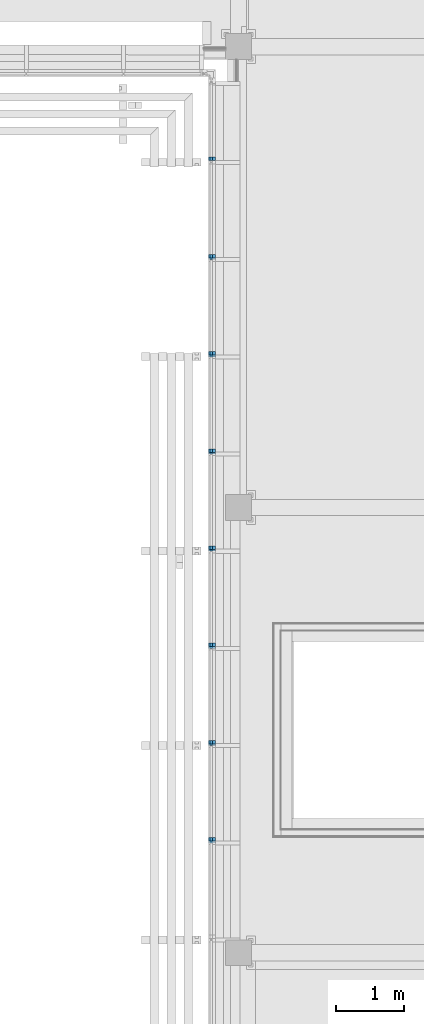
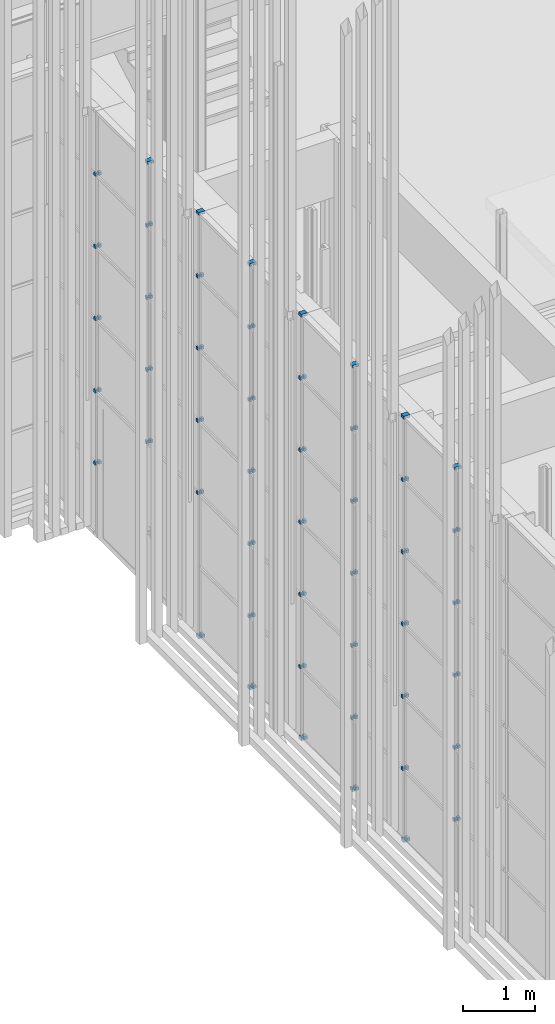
# One storey, part 42 of 260: 50 members, 1 element without a shape of its own.
"""IFC2X3 building model written with IfcOpenShell, lengths in millimetres."""

from ifc_helpers import new_model, entity, si_unit, converted_unit, derived_unit, money_unit, direction, frame, origin_with_axes, place, context, subcontext, project, spatial, faceted_brep, source, transform, mapped, material, type_object, element, aggregate, save


model = new_model("IFC2X3")

# Units and contexts
model_context = context("Model", 3, precision=0.01, world=origin_with_axes(), true_north=direction((0.0, 1.0)))
body_context = subcontext(model_context, "Body", "Model", "MODEL_VIEW")
ifc_project = project(units=[si_unit("LENGTHUNIT", "METRE", prefix="MILLI"), si_unit("AREAUNIT", "SQUARE_METRE"), si_unit("VOLUMEUNIT", "CUBIC_METRE"), converted_unit("PLANEANGLEUNIT", "DEGREE", entity("IfcPlaneAngleMeasure", 0.0174532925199), si_unit("PLANEANGLEUNIT", "RADIAN"), dimensions=[0, 0, 0, 0, 0, 0, 0]), money_unit("EUR"), converted_unit("TIMEUNIT", "Year", entity("IfcTimeMeasure", 31556926.0), si_unit("TIMEUNIT", "SECOND"), dimensions=[0, 0, 1, 0, 0, 0, 0]), si_unit("MASSUNIT", "GRAM", prefix="KILO"), si_unit("THERMODYNAMICTEMPERATUREUNIT", "DEGREE_CELSIUS"), si_unit("LUMINOUSINTENSITYUNIT", "LUMEN"), si_unit("ENERGYUNIT", "JOULE", prefix="MEGA"), derived_unit("THERMALCONDUCTANCEUNIT", [(si_unit("POWERUNIT", "WATT"), 1), (si_unit("LENGTHUNIT", "METRE"), -1), (si_unit("THERMODYNAMICTEMPERATUREUNIT", "KELVIN"), -1)]), derived_unit("SPECIFICHEATCAPACITYUNIT", [(si_unit("ENERGYUNIT", "JOULE"), 1), (si_unit("MASSUNIT", "GRAM", prefix="KILO"), -1), (si_unit("THERMODYNAMICTEMPERATUREUNIT", "KELVIN"), -1)]), derived_unit("MASSDENSITYUNIT", [(si_unit("MASSUNIT", "GRAM", prefix="KILO"), 1), (si_unit("VOLUMEUNIT", "CUBIC_METRE"), -1)])], contexts=[model_context])

# Site, building, storey
site_placement = place(None, origin_with_axes())
site = spatial("IfcSite", under=ifc_project, at=site_placement, Name="Kolde pst 67a", CompositionType="ELEMENT")
building_placement = place(site_placement, origin_with_axes())
building = spatial("IfcBuilding", under=site, at=building_placement, Name="Riigigümnaasium", CompositionType="ELEMENT")
storey_placement = place(building_placement, origin_with_axes())
storey = spatial("IfcBuildingStorey", under=building, at=storey_placement, Name="1. korrus", CompositionType="ELEMENT", Elevation=0.0)

# Curtain wall, members
curtain_wall_type = type_object("IfcCurtainWallType", Name="Curtain Wall Type", PredefinedType="NOTDEFINED")
curtain_wall_placement = place(storey_placement, frame((47829.9854655, 8727.77020058, -0.000749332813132), z_axis=(0.0, 0.0, 1.0), x_axis=(1.0, 0.0, 0.0)))
curtain_wall = element("IfcCurtainWall", 1, at=curtain_wall_placement, inside=storey, type_object=curtain_wall_type, Name="KLAASFASSAAD")
ifc_material = material(Name="_METALL - alumiinium")
member_type_1 = type_object("IfcMemberType", Name="Boundary Frame 50 x 100", PredefinedType="MEMBER")
shared_shape_1 = source(origin_with_axes(), body_context, "Body", "Brep", [
    faceted_brep([(-30.0, -16.5, 77.2480145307), (-50.0, -16.5, 77.2480145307), (-50.0, -60.0, 77.2480145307), (0.0, -60.0, 77.2480145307), (0.0, 40.0, 77.2480145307), (-50.0, 40.0, 77.2480145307), (-50.0, 16.5, 77.2480145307), (-30.0, 16.5, 77.2480145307), (-30.0, -16.5, 0.0), (-50.0, -16.5, 0.0), (-50.0, -60.0, 0.0), (0.0, -60.0, 0.0), (0.0, 40.0, 0.0), (-50.0, 40.0, 0.0), (-50.0, 16.5, 0.0), (-30.0, 16.5, 0.0)], [[[0, 1, 2, 3, 4, 5, 6, 7]], [[0, 8, 9, 1]], [[9, 10, 2, 1]], [[10, 11, 3, 2]], [[11, 12, 4, 3]], [[12, 13, 5, 4]], [[6, 5, 13, 14]], [[14, 15, 7, 6]], [[7, 15, 8, 0]], [[8, 15, 14, 13, 12, 11, 10, 9]]]),
])
member_1_placement = place(curtain_wall_placement, frame((-4.75753836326e-06, 5218.79108249, 0.0), z_axis=(-9.11633809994e-10, 1.0, 0.0), x_axis=(0.0, 0.0, 1.0)))
member_1 = element("IfcMember", 2, at=member_1_placement, type_object=member_type_1, material=ifc_material, Name="RF RAAM SERV-557", ObjectType="MEMBER", context=body_context, shape_type="MappedRepresentation", body=[
    mapped(shared_shape_1, transform((0.0, 0.0, 0.0), x_axis=(-1.0, 0.0, 0.0), y_axis=(0.0, -1.0, 9.11633687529e-10), z_axis=(0.0, 9.11633687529e-10, 1.0))),
])
member_2_placement = place(curtain_wall_placement, frame((-6.06114980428e-06, 6648.7910799, 0.0), z_axis=(-9.1163377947e-10, 1.0, 0.0), x_axis=(0.0, 0.0, 1.0)))
member_2 = element("IfcMember", 3, at=member_2_placement, type_object=member_type_1, material=ifc_material, Name="RF RAAM SERV-558", ObjectType="MEMBER", context=body_context, shape_type="MappedRepresentation", body=[
    mapped(shared_shape_1, transform((0.0, 0.0, 0.0), x_axis=(-1.0, 0.0, 0.0), y_axis=(0.0, -1.0, 9.11633657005e-10), z_axis=(0.0, 9.11633657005e-10, 1.0))),
])
member_3_placement = place(curtain_wall_placement, frame((-8.66836558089e-06, 9508.79106023, 0.0), z_axis=(-9.11633547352e-10, 1.0, 0.0), x_axis=(0.0, 0.0, 1.0)))
member_3 = element("IfcMember", 4, at=member_3_placement, type_object=member_type_1, material=ifc_material, Name="RF RAAM SERV-560", ObjectType="MEMBER", context=body_context, shape_type="MappedRepresentation", body=[
    mapped(shared_shape_1, transform((0.0, 0.0, 0.0), x_axis=(-1.0, 0.0, 0.0), y_axis=(0.0, -1.0, 9.11633424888e-10), z_axis=(0.0, 9.11633424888e-10, 1.0))),
])
member_4_placement = place(curtain_wall_placement, frame((-9.97197702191e-06, 10938.7910576, 0.0), z_axis=(-9.11633516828e-10, 1.0, 0.0), x_axis=(0.0, 0.0, 1.0)))
member_4 = element("IfcMember", 5, at=member_4_placement, type_object=member_type_1, material=ifc_material, Name="RF RAAM SERV-561", ObjectType="MEMBER", context=body_context, shape_type="MappedRepresentation", body=[
    mapped(shared_shape_1, transform((0.0, 0.0, 0.0), x_axis=(-1.0, 0.0, 0.0), y_axis=(0.0, -1.0, 9.11633394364e-10), z_axis=(0.0, 9.11633394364e-10, 1.0))),
])
member_5_placement = place(curtain_wall_placement, frame((-4.82796025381e-06, 5296.03908467, 7259.99994321), z_axis=(9.11633808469e-10, -1.0, 0.0), x_axis=(0.0, 0.0, -1.0)))
member_5 = element("IfcMember", 6, at=member_5_placement, type_object=member_type_1, material=ifc_material, Name="RF RAAM SERV-578", ObjectType="MEMBER", context=body_context, shape_type="MappedRepresentation", body=[
    mapped(shared_shape_1, transform((0.0, 0.0, 0.0), x_axis=(-1.0, 0.0, 0.0), y_axis=(0.0, -1.0, -9.11633808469e-10), z_axis=(0.0, -9.11633808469e-10, 1.0))),
])
member_6_placement = place(curtain_wall_placement, frame((-6.13157169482e-06, 6726.03908467, 7259.99994321), z_axis=(9.11633778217e-10, -1.0, 0.0), x_axis=(0.0, 0.0, -1.0)))
member_6 = element("IfcMember", 7, at=member_6_placement, type_object=member_type_1, material=ifc_material, Name="RF RAAM SERV-577", ObjectType="MEMBER", context=body_context, shape_type="MappedRepresentation", body=[
    mapped(shared_shape_1, transform((0.0, 0.0, 0.0), x_axis=(-1.0, 0.0, 0.0), y_axis=(0.0, -1.0, -9.11633778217e-10), z_axis=(0.0, -9.11633778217e-10, 1.0))),
])
member_7_placement = place(curtain_wall_placement, frame((-8.73878747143e-06, 9586.03908467, 7259.99994321), z_axis=(9.11633548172e-10, -1.0, 0.0), x_axis=(0.0, 0.0, -1.0)))
member_7 = element("IfcMember", 8, at=member_7_placement, type_object=member_type_1, material=ifc_material, Name="RF RAAM SERV-575", ObjectType="MEMBER", context=body_context, shape_type="MappedRepresentation", body=[
    mapped(shared_shape_1, transform((0.0, 0.0, 0.0), x_axis=(-1.0, 0.0, 0.0), y_axis=(0.0, -1.0, -9.11633548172e-10), z_axis=(0.0, -9.11633548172e-10, 1.0))),
])
member_8_placement = place(curtain_wall_placement, frame((-1.00423989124e-05, 11016.0390847, 7259.99994321), z_axis=(9.11633517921e-10, -1.0, 0.0), x_axis=(0.0, 0.0, -1.0)))
member_8 = element("IfcMember", 9, at=member_8_placement, type_object=member_type_1, material=ifc_material, Name="RF RAAM SERV-574", ObjectType="MEMBER", context=body_context, shape_type="MappedRepresentation", body=[
    mapped(shared_shape_1, transform((0.0, 0.0, 0.0), x_axis=(-1.0, 0.0, 0.0), y_axis=(0.0, -1.0, -9.11633517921e-10), z_axis=(0.0, -9.11633517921e-10, 1.0))),
])
member_9_placement = place(curtain_wall_placement, frame((-3.52434881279e-06, 3866.03908467, 7259.99994321), z_axis=(9.11633665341e-10, -1.0, 0.0), x_axis=(0.0, 0.0, -1.0)))
member_9 = element("IfcMember", 10, at=member_9_placement, type_object=member_type_1, material=ifc_material, Name="RF RAAM SERV-579", ObjectType="MEMBER", context=body_context, shape_type="MappedRepresentation", body=[
    mapped(shared_shape_1, transform((0.0, 0.0, 0.0), x_axis=(-1.0, 0.0, 0.0), y_axis=(0.0, -1.0, -9.11633665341e-10), z_axis=(0.0, -9.11633665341e-10, 1.0))),
])
shared_shape_2 = source(origin_with_axes(), body_context, "Body", "Brep", [
    faceted_brep([(-30.0, -16.5, 77.2396088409), (-50.0, -16.5, 77.2396088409), (-50.0, -60.0, 77.2396088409), (0.0, -60.0, 77.2396088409), (0.0, 40.0, 77.2396088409), (-50.0, 40.0, 77.2396088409), (-50.0, 16.5, 77.2396088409), (-30.0, 16.5, 77.2396088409), (-30.0, -16.5, 0.0), (-50.0, -16.5, 0.0), (-50.0, -60.0, 0.0), (0.0, -60.0, 0.0), (0.0, 40.0, 0.0), (-50.0, 40.0, 0.0), (-50.0, 16.5, 0.0), (-30.0, 16.5, 0.0)], [[[0, 1, 2, 3, 4, 5, 6, 7]], [[0, 8, 9, 1]], [[9, 10, 2, 1]], [[10, 11, 3, 2]], [[11, 12, 4, 3]], [[12, 13, 5, 4]], [[6, 5, 13, 14]], [[14, 15, 7, 6]], [[7, 15, 8, 0]], [[8, 15, 14, 13, 12, 11, 10, 9]]]),
])
member_10_placement = place(curtain_wall_placement, frame((-7.36476835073e-06, 8078.79947583, 0.0), z_axis=(-9.11640881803e-10, 1.0, 0.0), x_axis=(0.0, 0.0, 1.0)))
member_10 = element("IfcMember", 11, at=member_10_placement, type_object=member_type_1, material=ifc_material, Name="RF RAAM SERV-559", ObjectType="MEMBER", context=body_context, shape_type="MappedRepresentation", body=[
    mapped(shared_shape_2, transform((0.0, 0.0, 0.0), x_axis=(-1.0, 0.0, 0.0), y_axis=(0.0, -1.0, 9.11640759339e-10), z_axis=(0.0, 9.11640759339e-10, 1.0))),
])
member_11_placement = place(curtain_wall_placement, frame((-1.13460103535e-05, 12446.0390847, 7259.99994321), z_axis=(9.11640991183e-10, -1.0, 0.0), x_axis=(0.0, 0.0, -1.0)))
member_11 = element("IfcMember", 12, at=member_11_placement, type_object=member_type_1, material=ifc_material, Name="RF RAAM SERV-573", ObjectType="MEMBER", context=body_context, shape_type="MappedRepresentation", body=[
    mapped(shared_shape_2, transform((0.0, 0.0, 0.0), x_axis=(-1.0, 0.0, 0.0), y_axis=(0.0, -1.0, -9.11640991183e-10), z_axis=(0.0, -9.11640991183e-10, 1.0))),
])
member_12_placement = place(curtain_wall_placement, frame((-7.43518313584e-06, 8156.03908467, 7259.99994321), z_axis=(9.11640881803e-10, -1.0, 0.0), x_axis=(0.0, 0.0, -1.0)))
member_12 = element("IfcMember", 13, at=member_12_placement, type_object=member_type_1, material=ifc_material, Name="RF RAAM SERV-576", ObjectType="MEMBER", context=body_context, shape_type="MappedRepresentation", body=[
    mapped(shared_shape_2, transform((0.0, 0.0, 0.0), x_axis=(-1.0, 0.0, 0.0), y_axis=(0.0, -1.0, -9.11640881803e-10), z_axis=(0.0, -9.11640881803e-10, 1.0))),
])
member_type_2 = type_object("IfcMemberType", Name="Transom Frame 50 x 100", PredefinedType="MEMBER")
shared_shape_3 = source(origin_with_axes(), body_context, "Body", "Brep", [
    faceted_brep([(5.0, -16.5, 77.2480166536), (5.0, 16.5, 77.2480166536), (25.0, 16.5, 77.2480166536), (25.0, 40.0, 77.2480166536), (-25.0, 40.0, 77.2480166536), (-25.0, 16.5, 77.2480166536), (-5.0, 16.5, 77.2480166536), (-5.0, -16.5, 77.2480166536), (-25.0, -16.5, 77.2480166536), (-25.0, -60.0, 77.2480166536), (25.0, -60.0, 77.2480166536), (25.0, -16.5, 77.2480166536), (5.0, -16.5, 25.0), (5.0, 16.5, 25.0), (25.0, 16.5, 25.0), (25.0, 40.0, 25.0), (-25.0, 40.0, 25.0), (-25.0, 16.5, 25.0), (-5.0, 16.5, 25.0), (-5.0, -16.5, 25.0), (-25.0, -16.5, 25.0), (-25.0, -60.0, 25.0), (25.0, -60.0, 25.0), (25.0, -16.5, 25.0)], [[[0, 1, 2, 3, 4, 5, 6, 7, 8, 9, 10, 11]], [[0, 12, 13, 1]], [[1, 13, 14, 2]], [[14, 15, 3, 2]], [[4, 3, 15, 16]], [[17, 5, 4, 16]], [[5, 17, 18, 6]], [[7, 6, 18, 19]], [[8, 7, 19, 20]], [[8, 20, 21, 9]], [[10, 9, 21, 22]], [[11, 10, 22, 23]], [[11, 23, 12, 0]], [[13, 12, 23, 22, 21, 20, 19, 18, 17, 16, 15, 14]]]),
])
member_13_placement = place(curtain_wall_placement, frame((-3.45392692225e-06, 3788.79106801, 1230.00074933), z_axis=(-9.11633639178e-10, 1.0, 0.0), x_axis=(0.0, 0.0, 1.0)))
member_13 = element("IfcMember", 14, at=member_13_placement, type_object=member_type_2, material=ifc_material, Name="RF RAAM HOR-669", ObjectType="MEMBER", context=body_context, shape_type="MappedRepresentation", body=[
    mapped(shared_shape_3, transform((0.0, 0.0, 0.0), x_axis=(-1.0, 0.0, 0.0), y_axis=(0.0, -1.0, 9.11633516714e-10), z_axis=(0.0, 9.11633516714e-10, 1.0))),
])
member_14_placement = place(curtain_wall_placement, frame((-4.75753836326e-06, 5218.79108932, 1230.00074933), z_axis=(-9.1163389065e-10, 1.0, 0.0), x_axis=(0.0, 0.0, 1.0)))
member_14 = element("IfcMember", 15, at=member_14_placement, type_object=member_type_2, material=ifc_material, Name="RF RAAM HOR-669", ObjectType="MEMBER", context=body_context, shape_type="MappedRepresentation", body=[
    mapped(shared_shape_3, transform((0.0, 0.0, 0.0), x_axis=(-1.0, 0.0, 0.0), y_axis=(0.0, -1.0, 9.11633768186e-10), z_axis=(0.0, 9.11633768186e-10, 1.0))),
])
member_15_placement = place(curtain_wall_placement, frame((-6.06114980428e-06, 6648.79108932, 1230.00074933), z_axis=(-9.1163389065e-10, 1.0, 0.0), x_axis=(0.0, 0.0, 1.0)))
member_15 = element("IfcMember", 16, at=member_15_placement, type_object=member_type_2, material=ifc_material, Name="RF RAAM HOR-669", ObjectType="MEMBER", context=body_context, shape_type="MappedRepresentation", body=[
    mapped(shared_shape_3, transform((0.0, 0.0, 0.0), x_axis=(-1.0, 0.0, 0.0), y_axis=(0.0, -1.0, 9.11633768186e-10), z_axis=(0.0, 9.11633768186e-10, 1.0))),
])
member_16_placement = place(curtain_wall_placement, frame((-8.66836558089e-06, 9508.79106801, 1230.00074933), z_axis=(-9.11633639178e-10, 1.0, 0.0), x_axis=(0.0, 0.0, 1.0)))
member_16 = element("IfcMember", 17, at=member_16_placement, type_object=member_type_2, material=ifc_material, Name="RF RAAM HOR-669", ObjectType="MEMBER", context=body_context, shape_type="MappedRepresentation", body=[
    mapped(shared_shape_3, transform((0.0, 0.0, 0.0), x_axis=(-1.0, 0.0, 0.0), y_axis=(0.0, -1.0, 9.11633516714e-10), z_axis=(0.0, 9.11633516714e-10, 1.0))),
])
member_17_placement = place(curtain_wall_placement, frame((-3.45392692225e-06, 3788.79106801, 2460.00074933), z_axis=(-9.11633639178e-10, 1.0, 0.0), x_axis=(0.0, 0.0, 1.0)))
member_17 = element("IfcMember", 18, at=member_17_placement, type_object=member_type_2, material=ifc_material, Name="RF RAAM HOR-669", ObjectType="MEMBER", context=body_context, shape_type="MappedRepresentation", body=[
    mapped(shared_shape_3, transform((0.0, 0.0, 0.0), x_axis=(-1.0, 0.0, 0.0), y_axis=(0.0, -1.0, 9.11633516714e-10), z_axis=(0.0, 9.11633516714e-10, 1.0))),
])
member_18_placement = place(curtain_wall_placement, frame((-4.75753836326e-06, 5218.79108932, 2460.00074933), z_axis=(-9.1163389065e-10, 1.0, 0.0), x_axis=(0.0, 0.0, 1.0)))
member_18 = element("IfcMember", 19, at=member_18_placement, type_object=member_type_2, material=ifc_material, Name="RF RAAM HOR-669", ObjectType="MEMBER", context=body_context, shape_type="MappedRepresentation", body=[
    mapped(shared_shape_3, transform((0.0, 0.0, 0.0), x_axis=(-1.0, 0.0, 0.0), y_axis=(0.0, -1.0, 9.11633768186e-10), z_axis=(0.0, 9.11633768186e-10, 1.0))),
])
member_19_placement = place(curtain_wall_placement, frame((-6.06114980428e-06, 6648.79108932, 2460.00074933), z_axis=(-9.1163389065e-10, 1.0, 0.0), x_axis=(0.0, 0.0, 1.0)))
member_19 = element("IfcMember", 20, at=member_19_placement, type_object=member_type_2, material=ifc_material, Name="RF RAAM HOR-669", ObjectType="MEMBER", context=body_context, shape_type="MappedRepresentation", body=[
    mapped(shared_shape_3, transform((0.0, 0.0, 0.0), x_axis=(-1.0, 0.0, 0.0), y_axis=(0.0, -1.0, 9.11633768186e-10), z_axis=(0.0, 9.11633768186e-10, 1.0))),
])
member_20_placement = place(curtain_wall_placement, frame((-8.66836558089e-06, 9508.79106801, 2460.00074933), z_axis=(-9.11633639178e-10, 1.0, 0.0), x_axis=(0.0, 0.0, 1.0)))
member_20 = element("IfcMember", 21, at=member_20_placement, type_object=member_type_2, material=ifc_material, Name="RF RAAM HOR-669", ObjectType="MEMBER", context=body_context, shape_type="MappedRepresentation", body=[
    mapped(shared_shape_3, transform((0.0, 0.0, 0.0), x_axis=(-1.0, 0.0, 0.0), y_axis=(0.0, -1.0, 9.11633516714e-10), z_axis=(0.0, 9.11633516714e-10, 1.0))),
])
member_21_placement = place(curtain_wall_placement, frame((-9.97197702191e-06, 10938.791068, 2460.00074933), z_axis=(-9.11633639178e-10, 1.0, 0.0), x_axis=(0.0, 0.0, 1.0)))
member_21 = element("IfcMember", 22, at=member_21_placement, type_object=member_type_2, material=ifc_material, Name="RF RAAM HOR-669", ObjectType="MEMBER", context=body_context, shape_type="MappedRepresentation", body=[
    mapped(shared_shape_3, transform((0.0, 0.0, 0.0), x_axis=(-1.0, 0.0, 0.0), y_axis=(0.0, -1.0, 9.11633516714e-10), z_axis=(0.0, 9.11633516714e-10, 1.0))),
])
member_22_placement = place(curtain_wall_placement, frame((-1.25791999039e-05, 13798.7910893, 2460.00074933), z_axis=(-9.1163389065e-10, 1.0, 0.0), x_axis=(0.0, 0.0, 1.0)))
member_22 = element("IfcMember", 23, at=member_22_placement, type_object=member_type_2, material=ifc_material, Name="RF RAAM HOR-669", ObjectType="MEMBER", context=body_context, shape_type="MappedRepresentation", body=[
    mapped(shared_shape_3, transform((0.0, 0.0, 0.0), x_axis=(-1.0, 0.0, 0.0), y_axis=(0.0, -1.0, 9.11633768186e-10), z_axis=(0.0, 9.11633768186e-10, 1.0))),
])
member_23_placement = place(curtain_wall_placement, frame((-3.45392692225e-06, 3788.79106801, 3690.00074933), z_axis=(-9.11633639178e-10, 1.0, 0.0), x_axis=(0.0, 0.0, 1.0)))
member_23 = element("IfcMember", 24, at=member_23_placement, type_object=member_type_2, material=ifc_material, Name="RF RAAM HOR-756", ObjectType="MEMBER", context=body_context, shape_type="MappedRepresentation", body=[
    mapped(shared_shape_3, transform((0.0, 0.0, 0.0), x_axis=(-1.0, 0.0, 0.0), y_axis=(0.0, -1.0, 9.11633516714e-10), z_axis=(0.0, 9.11633516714e-10, 1.0))),
])
member_24_placement = place(curtain_wall_placement, frame((-4.75753836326e-06, 5218.79108932, 3690.00074933), z_axis=(-9.1163389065e-10, 1.0, 0.0), x_axis=(0.0, 0.0, 1.0)))
member_24 = element("IfcMember", 25, at=member_24_placement, type_object=member_type_2, material=ifc_material, Name="RF RAAM HOR-755", ObjectType="MEMBER", context=body_context, shape_type="MappedRepresentation", body=[
    mapped(shared_shape_3, transform((0.0, 0.0, 0.0), x_axis=(-1.0, 0.0, 0.0), y_axis=(0.0, -1.0, 9.11633768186e-10), z_axis=(0.0, 9.11633768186e-10, 1.0))),
])
member_25_placement = place(curtain_wall_placement, frame((-6.06114980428e-06, 6648.79108932, 3690.00074933), z_axis=(-9.1163389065e-10, 1.0, 0.0), x_axis=(0.0, 0.0, 1.0)))
member_25 = element("IfcMember", 26, at=member_25_placement, type_object=member_type_2, material=ifc_material, Name="RF RAAM HOR-754", ObjectType="MEMBER", context=body_context, shape_type="MappedRepresentation", body=[
    mapped(shared_shape_3, transform((0.0, 0.0, 0.0), x_axis=(-1.0, 0.0, 0.0), y_axis=(0.0, -1.0, 9.11633768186e-10), z_axis=(0.0, 9.11633768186e-10, 1.0))),
])
member_26_placement = place(curtain_wall_placement, frame((-8.66836558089e-06, 9508.79106801, 3690.00074933), z_axis=(-9.11633639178e-10, 1.0, 0.0), x_axis=(0.0, 0.0, 1.0)))
member_26 = element("IfcMember", 27, at=member_26_placement, type_object=member_type_2, material=ifc_material, Name="RF RAAM HOR-752", ObjectType="MEMBER", context=body_context, shape_type="MappedRepresentation", body=[
    mapped(shared_shape_3, transform((0.0, 0.0, 0.0), x_axis=(-1.0, 0.0, 0.0), y_axis=(0.0, -1.0, 9.11633516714e-10), z_axis=(0.0, 9.11633516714e-10, 1.0))),
])
member_27_placement = place(curtain_wall_placement, frame((-9.97197702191e-06, 10938.791068, 3690.00074933), z_axis=(-9.11633639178e-10, 1.0, 0.0), x_axis=(0.0, 0.0, 1.0)))
member_27 = element("IfcMember", 28, at=member_27_placement, type_object=member_type_2, material=ifc_material, Name="RF RAAM HOR-751", ObjectType="MEMBER", context=body_context, shape_type="MappedRepresentation", body=[
    mapped(shared_shape_3, transform((0.0, 0.0, 0.0), x_axis=(-1.0, 0.0, 0.0), y_axis=(0.0, -1.0, 9.11633516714e-10), z_axis=(0.0, 9.11633516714e-10, 1.0))),
])
member_28_placement = place(curtain_wall_placement, frame((-1.25791999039e-05, 13798.7910893, 3690.00074933), z_axis=(-9.1163389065e-10, 1.0, 0.0), x_axis=(0.0, 0.0, 1.0)))
member_28 = element("IfcMember", 29, at=member_28_placement, type_object=member_type_2, material=ifc_material, Name="RF RAAM HOR-749", ObjectType="MEMBER", context=body_context, shape_type="MappedRepresentation", body=[
    mapped(shared_shape_3, transform((0.0, 0.0, 0.0), x_axis=(-1.0, 0.0, 0.0), y_axis=(0.0, -1.0, 9.11633768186e-10), z_axis=(0.0, 9.11633768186e-10, 1.0))),
])
member_29_placement = place(curtain_wall_placement, frame((-3.45392692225e-06, 3788.79108932, 4920.00074933), z_axis=(-9.1163389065e-10, 1.0, 0.0), x_axis=(0.0, 0.0, 1.0)))
member_29 = element("IfcMember", 30, at=member_29_placement, type_object=member_type_2, material=ifc_material, Name="RF RAAM HOR-714", ObjectType="MEMBER", context=body_context, shape_type="MappedRepresentation", body=[
    mapped(shared_shape_3, transform((0.0, 0.0, 0.0), x_axis=(-1.0, 0.0, 0.0), y_axis=(0.0, -1.0, 9.11633768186e-10), z_axis=(0.0, 9.11633768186e-10, 1.0))),
])
member_30_placement = place(curtain_wall_placement, frame((-4.75753836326e-06, 5218.79108932, 4920.00074933), z_axis=(-9.1163389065e-10, 1.0, 0.0), x_axis=(0.0, 0.0, 1.0)))
member_30 = element("IfcMember", 31, at=member_30_placement, type_object=member_type_2, material=ifc_material, Name="RF RAAM HOR-715", ObjectType="MEMBER", context=body_context, shape_type="MappedRepresentation", body=[
    mapped(shared_shape_3, transform((0.0, 0.0, 0.0), x_axis=(-1.0, 0.0, 0.0), y_axis=(0.0, -1.0, 9.11633768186e-10), z_axis=(0.0, 9.11633768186e-10, 1.0))),
])
member_31_placement = place(curtain_wall_placement, frame((-6.06114980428e-06, 6648.79108932, 4920.00074933), z_axis=(-9.1163389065e-10, 1.0, 0.0), x_axis=(0.0, 0.0, 1.0)))
member_31 = element("IfcMember", 32, at=member_31_placement, type_object=member_type_2, material=ifc_material, Name="RF RAAM HOR-716", ObjectType="MEMBER", context=body_context, shape_type="MappedRepresentation", body=[
    mapped(shared_shape_3, transform((0.0, 0.0, 0.0), x_axis=(-1.0, 0.0, 0.0), y_axis=(0.0, -1.0, 9.11633768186e-10), z_axis=(0.0, 9.11633768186e-10, 1.0))),
])
member_32_placement = place(curtain_wall_placement, frame((-8.66836558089e-06, 9508.79106801, 4920.00074933), z_axis=(-9.11633639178e-10, 1.0, 0.0), x_axis=(0.0, 0.0, 1.0)))
member_32 = element("IfcMember", 33, at=member_32_placement, type_object=member_type_2, material=ifc_material, Name="RF RAAM HOR-718", ObjectType="MEMBER", context=body_context, shape_type="MappedRepresentation", body=[
    mapped(shared_shape_3, transform((0.0, 0.0, 0.0), x_axis=(-1.0, 0.0, 0.0), y_axis=(0.0, -1.0, 9.11633516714e-10), z_axis=(0.0, 9.11633516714e-10, 1.0))),
])
member_33_placement = place(curtain_wall_placement, frame((-9.97197702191e-06, 10938.791068, 4920.00074933), z_axis=(-9.11633639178e-10, 1.0, 0.0), x_axis=(0.0, 0.0, 1.0)))
member_33 = element("IfcMember", 34, at=member_33_placement, type_object=member_type_2, material=ifc_material, Name="RF RAAM HOR-719", ObjectType="MEMBER", context=body_context, shape_type="MappedRepresentation", body=[
    mapped(shared_shape_3, transform((0.0, 0.0, 0.0), x_axis=(-1.0, 0.0, 0.0), y_axis=(0.0, -1.0, 9.11633516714e-10), z_axis=(0.0, 9.11633516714e-10, 1.0))),
])
member_34_placement = place(curtain_wall_placement, frame((-1.25791999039e-05, 13798.7910893, 4920.00074933), z_axis=(-9.1163389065e-10, 1.0, 0.0), x_axis=(0.0, 0.0, 1.0)))
member_34 = element("IfcMember", 35, at=member_34_placement, type_object=member_type_2, material=ifc_material, Name="RF RAAM HOR-721", ObjectType="MEMBER", context=body_context, shape_type="MappedRepresentation", body=[
    mapped(shared_shape_3, transform((0.0, 0.0, 0.0), x_axis=(-1.0, 0.0, 0.0), y_axis=(0.0, -1.0, 9.11633768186e-10), z_axis=(0.0, 9.11633768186e-10, 1.0))),
])
member_35_placement = place(curtain_wall_placement, frame((-3.45392692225e-06, 3788.79106801, 6150.00074933), z_axis=(-9.11633639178e-10, 1.0, 0.0), x_axis=(0.0, 0.0, 1.0)))
member_35 = element("IfcMember", 36, at=member_35_placement, type_object=member_type_2, material=ifc_material, Name="RF RAAM HOR-726", ObjectType="MEMBER", context=body_context, shape_type="MappedRepresentation", body=[
    mapped(shared_shape_3, transform((0.0, 0.0, 0.0), x_axis=(-1.0, 0.0, 0.0), y_axis=(0.0, -1.0, 9.11633516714e-10), z_axis=(0.0, 9.11633516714e-10, 1.0))),
])
member_36_placement = place(curtain_wall_placement, frame((-4.75753836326e-06, 5218.79106801, 6150.00074933), z_axis=(-9.11633639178e-10, 1.0, 0.0), x_axis=(0.0, 0.0, 1.0)))
member_36 = element("IfcMember", 37, at=member_36_placement, type_object=member_type_2, material=ifc_material, Name="RF RAAM HOR-727", ObjectType="MEMBER", context=body_context, shape_type="MappedRepresentation", body=[
    mapped(shared_shape_3, transform((0.0, 0.0, 0.0), x_axis=(-1.0, 0.0, 0.0), y_axis=(0.0, -1.0, 9.11633516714e-10), z_axis=(0.0, 9.11633516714e-10, 1.0))),
])
member_37_placement = place(curtain_wall_placement, frame((-6.06114980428e-06, 6648.79106801, 6150.00074933), z_axis=(-9.11633639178e-10, 1.0, 0.0), x_axis=(0.0, 0.0, 1.0)))
member_37 = element("IfcMember", 38, at=member_37_placement, type_object=member_type_2, material=ifc_material, Name="RF RAAM HOR-728", ObjectType="MEMBER", context=body_context, shape_type="MappedRepresentation", body=[
    mapped(shared_shape_3, transform((0.0, 0.0, 0.0), x_axis=(-1.0, 0.0, 0.0), y_axis=(0.0, -1.0, 9.11633516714e-10), z_axis=(0.0, 9.11633516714e-10, 1.0))),
])
member_38_placement = place(curtain_wall_placement, frame((-8.66836558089e-06, 9508.79106801, 6150.00074933), z_axis=(-9.11633639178e-10, 1.0, 0.0), x_axis=(0.0, 0.0, 1.0)))
member_38 = element("IfcMember", 39, at=member_38_placement, type_object=member_type_2, material=ifc_material, Name="RF RAAM HOR-730", ObjectType="MEMBER", context=body_context, shape_type="MappedRepresentation", body=[
    mapped(shared_shape_3, transform((0.0, 0.0, 0.0), x_axis=(-1.0, 0.0, 0.0), y_axis=(0.0, -1.0, 9.11633516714e-10), z_axis=(0.0, 9.11633516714e-10, 1.0))),
])
member_39_placement = place(curtain_wall_placement, frame((-9.97197702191e-06, 10938.791068, 6150.00074933), z_axis=(-9.11633639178e-10, 1.0, 0.0), x_axis=(0.0, 0.0, 1.0)))
member_39 = element("IfcMember", 40, at=member_39_placement, type_object=member_type_2, material=ifc_material, Name="RF RAAM HOR-731", ObjectType="MEMBER", context=body_context, shape_type="MappedRepresentation", body=[
    mapped(shared_shape_3, transform((0.0, 0.0, 0.0), x_axis=(-1.0, 0.0, 0.0), y_axis=(0.0, -1.0, 9.11633516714e-10), z_axis=(0.0, 9.11633516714e-10, 1.0))),
])
member_40_placement = place(curtain_wall_placement, frame((-1.25791999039e-05, 13798.791068, 6150.00074933), z_axis=(-9.11633639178e-10, 1.0, 0.0), x_axis=(0.0, 0.0, 1.0)))
member_40 = element("IfcMember", 41, at=member_40_placement, type_object=member_type_2, material=ifc_material, Name="RF RAAM HOR-733", ObjectType="MEMBER", context=body_context, shape_type="MappedRepresentation", body=[
    mapped(shared_shape_3, transform((0.0, 0.0, 0.0), x_axis=(-1.0, 0.0, 0.0), y_axis=(0.0, -1.0, 9.11633516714e-10), z_axis=(0.0, 9.11633516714e-10, 1.0))),
])
member_41_placement = place(curtain_wall_placement, frame((-1.25791999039e-05, 13798.7910893, 1230.00074933), z_axis=(-9.1163389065e-10, 1.0, 0.0), x_axis=(0.0, 0.0, 1.0)))
member_41 = element("IfcMember", 42, at=member_41_placement, type_object=member_type_2, material=ifc_material, Name="RF RAAM HOR-921", ObjectType="MEMBER", context=body_context, shape_type="MappedRepresentation", body=[
    mapped(shared_shape_3, transform((0.0, 0.0, 0.0), x_axis=(-1.0, 0.0, 0.0), y_axis=(0.0, -1.0, 9.11633768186e-10), z_axis=(0.0, 9.11633768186e-10, 1.0))),
])
shared_shape_4 = source(origin_with_axes(), body_context, "Body", "Brep", [
    faceted_brep([(5.0, -16.5, 77.2396088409), (5.0, 16.5, 77.2396088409), (25.0, 16.5, 77.2396088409), (25.0, 40.0, 77.2396088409), (-25.0, 40.0, 77.2396088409), (-25.0, 16.5, 77.2396088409), (-5.0, 16.5, 77.2396088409), (-5.0, -16.5, 77.2396088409), (-25.0, -16.5, 77.2396088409), (-25.0, -60.0, 77.2396088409), (25.0, -60.0, 77.2396088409), (25.0, -16.5, 77.2396088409), (5.0, -16.5, 25.0000001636), (5.0, 16.5, 24.9999998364), (25.0, 16.5, 24.9999998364), (25.0, 40.0, 24.9999996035), (-25.0, 40.0, 24.9999996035), (-25.0, 16.5, 24.9999998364), (-5.0, 16.5, 24.9999998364), (-5.0, -16.5, 25.0000001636), (-25.0, -16.5, 25.0000001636), (-25.0, -60.0, 25.0000005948), (25.0, -60.0, 25.0000005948), (25.0, -16.5, 25.0000001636)], [[[0, 1, 2, 3, 4, 5, 6, 7, 8, 9, 10, 11]], [[0, 12, 13, 1]], [[1, 13, 14, 2]], [[14, 15, 3, 2]], [[4, 3, 15, 16]], [[17, 5, 4, 16]], [[5, 17, 18, 6]], [[7, 6, 18, 19]], [[8, 7, 19, 20]], [[8, 20, 21, 9]], [[10, 9, 21, 22]], [[11, 10, 22, 23]], [[11, 23, 12, 0]], [[13, 12, 23, 22, 21, 20, 19, 18, 17, 16, 15, 14]]]),
])
member_42_placement = place(curtain_wall_placement, frame((-7.36476835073e-06, 8078.79947583, 1230.00074933), z_axis=(-9.11640881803e-10, 1.0, 0.0), x_axis=(0.0, 0.0, 1.0)))
member_42 = element("IfcMember", 43, at=member_42_placement, type_object=member_type_2, material=ifc_material, Name="RF RAAM HOR-669", ObjectType="MEMBER", context=body_context, shape_type="MappedRepresentation", body=[
    mapped(shared_shape_4, transform((0.0, 0.0, 0.0), x_axis=(-1.0, 0.0, 0.0), y_axis=(0.0, -1.0, 9.11640759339e-10), z_axis=(0.0, 9.11640759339e-10, 1.0))),
])
member_43_placement = place(curtain_wall_placement, frame((-7.36476835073e-06, 8078.79946363, 2460.00074933), z_axis=(-9.11640737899e-10, 1.0, 0.0), x_axis=(0.0, 0.0, 1.0)))
member_43 = element("IfcMember", 44, at=member_43_placement, type_object=member_type_2, material=ifc_material, Name="RF RAAM HOR-669", ObjectType="MEMBER", context=body_context, shape_type="MappedRepresentation", body=[
    mapped(shared_shape_4, transform((0.0, 0.0, 0.0), x_axis=(-1.0, 0.0, 0.0), y_axis=(0.0, -1.0, 9.11640615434e-10), z_axis=(0.0, 9.11640615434e-10, 1.0))),
])
member_44_placement = place(curtain_wall_placement, frame((-1.12755955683e-05, 12368.7994636, 2460.00074933), z_axis=(-9.11640737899e-10, 1.0, 0.0), x_axis=(0.0, 0.0, 1.0)))
member_44 = element("IfcMember", 45, at=member_44_placement, type_object=member_type_2, material=ifc_material, Name="RF RAAM HOR-669", ObjectType="MEMBER", context=body_context, shape_type="MappedRepresentation", body=[
    mapped(shared_shape_4, transform((0.0, 0.0, 0.0), x_axis=(-1.0, 0.0, 0.0), y_axis=(0.0, -1.0, 9.11640615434e-10), z_axis=(0.0, 9.11640615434e-10, 1.0))),
])
member_45_placement = place(curtain_wall_placement, frame((-7.36476835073e-06, 8078.79946363, 3690.00074933), z_axis=(-9.11640737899e-10, 1.0, 0.0), x_axis=(0.0, 0.0, 1.0)))
member_45 = element("IfcMember", 46, at=member_45_placement, type_object=member_type_2, material=ifc_material, Name="RF RAAM HOR-753", ObjectType="MEMBER", context=body_context, shape_type="MappedRepresentation", body=[
    mapped(shared_shape_4, transform((0.0, 0.0, 0.0), x_axis=(-1.0, 0.0, 0.0), y_axis=(0.0, -1.0, 9.11640615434e-10), z_axis=(0.0, 9.11640615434e-10, 1.0))),
])
member_46_placement = place(curtain_wall_placement, frame((-1.12755955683e-05, 12368.7994636, 3690.00074933), z_axis=(-9.11640737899e-10, 1.0, 0.0), x_axis=(0.0, 0.0, 1.0)))
member_46 = element("IfcMember", 47, at=member_46_placement, type_object=member_type_2, material=ifc_material, Name="RF RAAM HOR-750", ObjectType="MEMBER", context=body_context, shape_type="MappedRepresentation", body=[
    mapped(shared_shape_4, transform((0.0, 0.0, 0.0), x_axis=(-1.0, 0.0, 0.0), y_axis=(0.0, -1.0, 9.11640615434e-10), z_axis=(0.0, 9.11640615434e-10, 1.0))),
])
member_47_placement = place(curtain_wall_placement, frame((-7.36476835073e-06, 8078.79946363, 4920.00074933), z_axis=(-9.11640737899e-10, 1.0, 0.0), x_axis=(0.0, 0.0, 1.0)))
member_47 = element("IfcMember", 48, at=member_47_placement, type_object=member_type_2, material=ifc_material, Name="RF RAAM HOR-717", ObjectType="MEMBER", context=body_context, shape_type="MappedRepresentation", body=[
    mapped(shared_shape_4, transform((0.0, 0.0, 0.0), x_axis=(-1.0, 0.0, 0.0), y_axis=(0.0, -1.0, 9.11640615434e-10), z_axis=(0.0, 9.11640615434e-10, 1.0))),
])
member_48_placement = place(curtain_wall_placement, frame((-1.12755955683e-05, 12368.7994636, 4920.00074933), z_axis=(-9.11640737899e-10, 1.0, 0.0), x_axis=(0.0, 0.0, 1.0)))
member_48 = element("IfcMember", 49, at=member_48_placement, type_object=member_type_2, material=ifc_material, Name="RF RAAM HOR-720", ObjectType="MEMBER", context=body_context, shape_type="MappedRepresentation", body=[
    mapped(shared_shape_4, transform((0.0, 0.0, 0.0), x_axis=(-1.0, 0.0, 0.0), y_axis=(0.0, -1.0, 9.11640615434e-10), z_axis=(0.0, 9.11640615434e-10, 1.0))),
])
member_49_placement = place(curtain_wall_placement, frame((-7.36476835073e-06, 8078.79947583, 6150.00074933), z_axis=(-9.11640881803e-10, 1.0, 0.0), x_axis=(0.0, 0.0, 1.0)))
member_49 = element("IfcMember", 50, at=member_49_placement, type_object=member_type_2, material=ifc_material, Name="RF RAAM HOR-729", ObjectType="MEMBER", context=body_context, shape_type="MappedRepresentation", body=[
    mapped(shared_shape_4, transform((0.0, 0.0, 0.0), x_axis=(-1.0, 0.0, 0.0), y_axis=(0.0, -1.0, 9.11640759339e-10), z_axis=(0.0, 9.11640759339e-10, 1.0))),
])
member_50_placement = place(curtain_wall_placement, frame((-1.12755955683e-05, 12368.7994636, 6150.00074933), z_axis=(-9.11640737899e-10, 1.0, 0.0), x_axis=(0.0, 0.0, 1.0)))
member_50 = element("IfcMember", 51, at=member_50_placement, type_object=member_type_2, material=ifc_material, Name="RF RAAM HOR-732", ObjectType="MEMBER", context=body_context, shape_type="MappedRepresentation", body=[
    mapped(shared_shape_4, transform((0.0, 0.0, 0.0), x_axis=(-1.0, 0.0, 0.0), y_axis=(0.0, -1.0, 9.11640615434e-10), z_axis=(0.0, 9.11640615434e-10, 1.0))),
])
aggregate(curtain_wall, [member_1, member_2, member_10, member_3, member_4, member_13, member_14, member_15, member_42, member_16, member_17, member_18, member_19, member_43, member_20, member_21, member_44, member_22, member_23, member_24, member_25, member_45, member_26, member_27, member_46, member_28, member_29, member_30, member_31, member_47, member_32, member_33, member_48, member_34, member_35, member_36, member_37, member_49, member_38, member_39, member_50, member_40, member_41, member_5, member_6, member_7, member_8, member_11, member_9, member_12])

save(model, "model.ifc")
